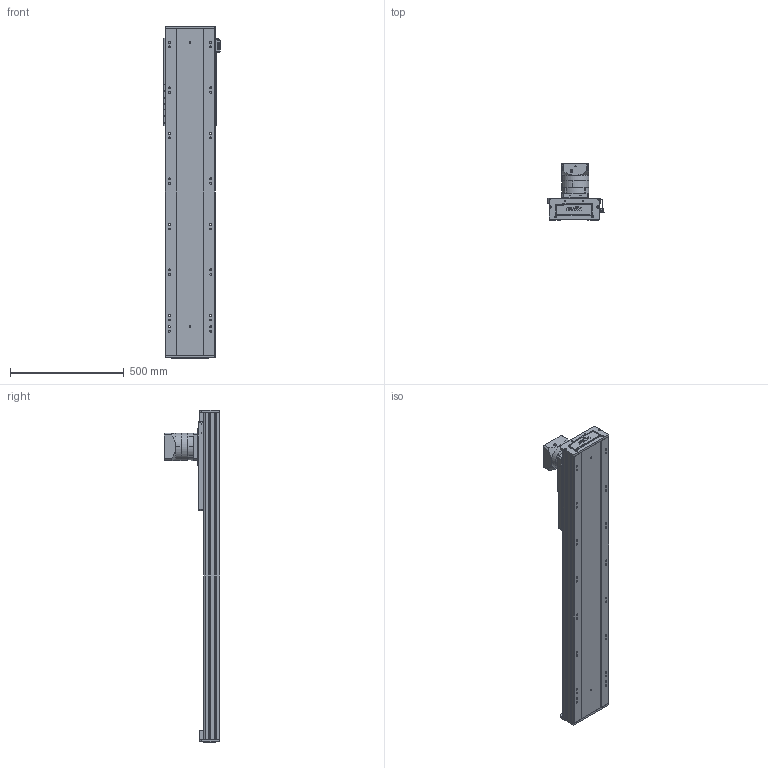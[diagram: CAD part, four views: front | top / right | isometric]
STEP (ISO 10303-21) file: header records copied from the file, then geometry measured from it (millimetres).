
FILE_DESCRIPTION (( 'STEP AP203' ), '1' );
FILE_NAME ('RY220-C-300-UK.SLDASM_0950.step', '2022-08-01T05:58:58', ( '' ), ( '' ), 'SwSTEP 2.0', 'SolidWorks 2016', '' );
FILE_SCHEMA (( 'CONFIG_CONTROL_DESIGN' ));
Length unit declared in the file: millimetre
Products named in the file (10): 覜茼ん674; PF115L1-S2-22-58-110-145-M8; RY220喘沭俋离覜茼え; RY140直线电机感应器674光电安装座; 滅袉蝶輸ㄗG412隅秶ㄘ; RY220菁釱MK-300_0950; RY220喘沭綴裔啣; RY220-C-300-UK.SLDASM_0950; RY220喘沭賑輸; RY220-齿条模组电机安装板
Assembly tree (12 placements, depth 2):
  RY220-C-300-UK.SLDASM_0950
    RY220菁釱MK-300_0950
    RY220喘沭賑輸
    RY220-齿条模组电机安装板
    PF115L1-S2-22-58-110-145-M8
    RY220喘沭綴裔啣  x2
    滅袉蝶輸ㄗG412隅秶ㄘ  x2
    RY140直线电机感应器674光电安装座
    覜茼ん674  x2
    RY220喘沭俋离覜茼え
Bounding box: 247 x 244.5 x 1459 mm (x, y, z)
Volume: 12122950.9 mm3; surface area: 2371754.8 mm2
Topology: 18 solids, 26 shells, 1962 faces, 5259 edges, 3354 vertices
Faces by surface type: cylinder 893, plane 751, bspline 162, cone 156
Entity records: 62077 total; most frequent: CARTESIAN_POINT 17148, DIRECTION 9151, ORIENTED_EDGE 9106, EDGE_CURVE 4553, AXIS2_PLACEMENT_3D 3465, VERTEX_POINT 2980, LINE 2221, VECTOR 2221
